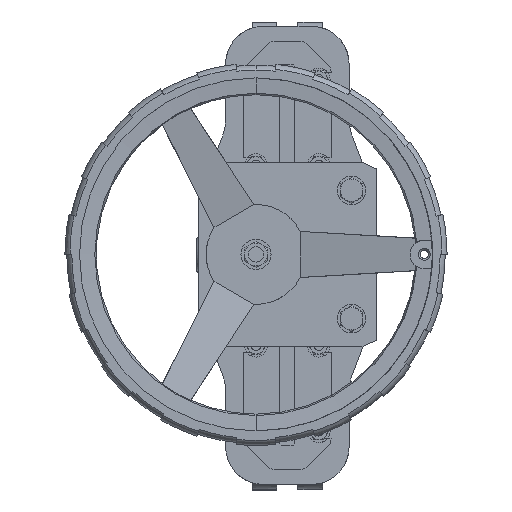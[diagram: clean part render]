
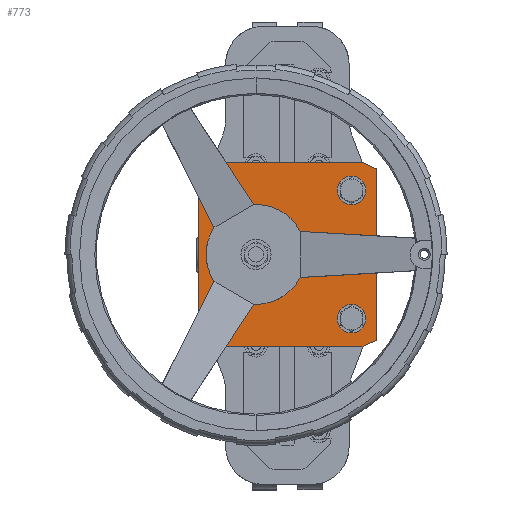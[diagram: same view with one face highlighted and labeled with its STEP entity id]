
A CAD part, top view. The second image highlights one B-rep face of the part: STEP entity #773.
In plain terms, the highlighted planar face has unit normal (0, 0, 1).
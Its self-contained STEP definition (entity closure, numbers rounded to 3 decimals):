
#773=ADVANCED_FACE('',(#2720,#2721,#2722,#2723,#2724,#2725),#2726,.F.);
#2720=FACE_BOUND('',#6056,.T.);
#2721=FACE_BOUND('',#6057,.T.);
#2722=FACE_OUTER_BOUND('',#6058,.T.);
#2723=FACE_BOUND('',#6059,.T.);
#2724=FACE_BOUND('',#6060,.T.);
#2725=FACE_BOUND('',#6061,.T.);
#2726=PLANE('',#6062);
#6056=EDGE_LOOP('',(#13411,#13412));
#6057=EDGE_LOOP('',(#13413,#13414));
#6058=EDGE_LOOP('',(#13415,#13416,#13417,#13418,#13419,#13420,#13421,#13422));
#6059=EDGE_LOOP('',(#13423,#13424));
#6060=EDGE_LOOP('',(#13425,#13426));
#6061=EDGE_LOOP('',(#13427,#13428));
#6062=AXIS2_PLACEMENT_3D('',#13429,#13430,#13431);
#13411=ORIENTED_EDGE('',*,*,#23729,.T.);
#13412=ORIENTED_EDGE('',*,*,#24422,.T.);
#13413=ORIENTED_EDGE('',*,*,#23227,.T.);
#13414=ORIENTED_EDGE('',*,*,#24423,.T.);
#13415=ORIENTED_EDGE('',*,*,#24283,.F.);
#13416=ORIENTED_EDGE('',*,*,#24379,.T.);
#13417=ORIENTED_EDGE('',*,*,#24424,.F.);
#13418=ORIENTED_EDGE('',*,*,#24425,.T.);
#13419=ORIENTED_EDGE('',*,*,#24226,.F.);
#13420=ORIENTED_EDGE('',*,*,#24230,.T.);
#13421=ORIENTED_EDGE('',*,*,#24426,.F.);
#13422=ORIENTED_EDGE('',*,*,#24427,.T.);
#13423=ORIENTED_EDGE('',*,*,#24017,.T.);
#13424=ORIENTED_EDGE('',*,*,#24428,.T.);
#13425=ORIENTED_EDGE('',*,*,#23212,.T.);
#13426=ORIENTED_EDGE('',*,*,#24429,.T.);
#13427=ORIENTED_EDGE('',*,*,#23396,.T.);
#13428=ORIENTED_EDGE('',*,*,#24430,.T.);
#13429=CARTESIAN_POINT('',(-93.5,-97.,891.1));
#13430=DIRECTION('',(0.,0.,-1.));
#13431=DIRECTION('',(0.,1.,0.));
#23212=EDGE_CURVE('',#28342,#28339,#28343,.T.);
#23227=EDGE_CURVE('',#28370,#28367,#28371,.T.);
#23396=EDGE_CURVE('',#28705,#28702,#28706,.T.);
#23729=EDGE_CURVE('',#29353,#29350,#29354,.T.);
#24017=EDGE_CURVE('',#29916,#29913,#29917,.T.);
#24226=EDGE_CURVE('',#30284,#30286,#30287,.T.);
#24230=EDGE_CURVE('',#30284,#30291,#30293,.T.);
#24283=EDGE_CURVE('',#30378,#30380,#30381,.T.);
#24379=EDGE_CURVE('',#30378,#30543,#30545,.T.);
#24422=EDGE_CURVE('',#29350,#29353,#30612,.T.);
#24423=EDGE_CURVE('',#28367,#28370,#30613,.T.);
#24424=EDGE_CURVE('',#30614,#30543,#30615,.T.);
#24425=EDGE_CURVE('',#30614,#30286,#30616,.T.);
#24426=EDGE_CURVE('',#30617,#30291,#30618,.T.);
#24427=EDGE_CURVE('',#30617,#30380,#30619,.T.);
#24428=EDGE_CURVE('',#29913,#29916,#30620,.T.);
#24429=EDGE_CURVE('',#28339,#28342,#30621,.T.);
#24430=EDGE_CURVE('',#28702,#28705,#30622,.T.);
#28339=VERTEX_POINT('',#35019);
#28342=VERTEX_POINT('',#35023);
#28343=CIRCLE('',#35024,15.);
#28367=VERTEX_POINT('',#35059);
#28370=VERTEX_POINT('',#35063);
#28371=CIRCLE('',#35064,15.);
#28702=VERTEX_POINT('',#35578);
#28705=VERTEX_POINT('',#35582);
#28706=CIRCLE('',#35583,15.);
#29350=VERTEX_POINT('',#36776);
#29353=VERTEX_POINT('',#36780);
#29354=CIRCLE('',#36781,15.);
#29913=VERTEX_POINT('',#37776);
#29916=VERTEX_POINT('',#37780);
#29917=CIRCLE('',#37781,27.5);
#30284=VERTEX_POINT('',#38529);
#30286=VERTEX_POINT('',#38532);
#30287=LINE('',#38533,#38534);
#30291=VERTEX_POINT('',#38540);
#30293=LINE('',#38543,#38544);
#30378=VERTEX_POINT('',#38721);
#30380=VERTEX_POINT('',#38724);
#30381=LINE('',#38725,#38726);
#30543=VERTEX_POINT('',#39016);
#30545=LINE('',#39019,#39020);
#30612=CIRCLE('',#39189,15.);
#30613=CIRCLE('',#39190,15.);
#30614=VERTEX_POINT('',#39191);
#30615=LINE('',#39192,#39193);
#30616=LINE('',#39194,#39195);
#30617=VERTEX_POINT('',#39196);
#30618=LINE('',#39197,#39198);
#30619=LINE('',#39199,#39200);
#30620=CIRCLE('',#39201,27.5);
#30621=CIRCLE('',#39202,15.);
#30622=CIRCLE('',#39203,15.);
#35019=CARTESIAN_POINT('',(67.5,82.5,891.1));
#35023=CARTESIAN_POINT('',(67.5,52.5,891.1));
#35024=AXIS2_PLACEMENT_3D('',#47868,#47869,#47870);
#35059=CARTESIAN_POINT('',(67.5,-52.5,891.1));
#35063=CARTESIAN_POINT('',(67.5,-82.5,891.1));
#35064=AXIS2_PLACEMENT_3D('',#47896,#47897,#47898);
#35578=CARTESIAN_POINT('',(-67.5,-52.5,891.1));
#35582=CARTESIAN_POINT('',(-67.5,-82.5,891.1));
#35583=AXIS2_PLACEMENT_3D('',#48202,#48203,#48204);
#36776=CARTESIAN_POINT('',(-67.5,82.5,891.1));
#36780=CARTESIAN_POINT('',(-67.5,52.5,891.1));
#36781=AXIS2_PLACEMENT_3D('',#48839,#48840,#48841);
#37776=CARTESIAN_POINT('',(-60.5,0.,891.1));
#37780=CARTESIAN_POINT('',(-5.5,0.,891.1));
#37781=AXIS2_PLACEMENT_3D('',#49333,#49334,#49335);
#38529=CARTESIAN_POINT('',(78.5,-97.,891.1));
#38532=CARTESIAN_POINT('',(-78.5,-97.,891.1));
#38533=CARTESIAN_POINT('',(93.5,-97.,891.1));
#38534=VECTOR('',#49661,1000.);
#38540=CARTESIAN_POINT('',(93.5,-90.005,891.1));
#38543=CARTESIAN_POINT('',(78.5,-97.,891.1));
#38544=VECTOR('',#49665,1000.);
#38721=CARTESIAN_POINT('',(-78.5,97.,891.1));
#38724=CARTESIAN_POINT('',(78.5,97.,891.1));
#38725=CARTESIAN_POINT('',(-93.5,97.,891.1));
#38726=VECTOR('',#49734,1000.);
#39016=CARTESIAN_POINT('',(-93.5,90.005,891.1));
#39019=CARTESIAN_POINT('',(-78.5,97.,891.1));
#39020=VECTOR('',#49901,1000.);
#39189=AXIS2_PLACEMENT_3D('',#49956,#49957,#49958);
#39190=AXIS2_PLACEMENT_3D('',#49959,#49960,#49961);
#39191=CARTESIAN_POINT('',(-93.5,-90.005,891.1));
#39192=CARTESIAN_POINT('',(-93.5,-97.,891.1));
#39193=VECTOR('',#49962,1000.);
#39194=CARTESIAN_POINT('',(-93.5,-90.005,891.1));
#39195=VECTOR('',#49963,1000.);
#39196=CARTESIAN_POINT('',(93.5,90.005,891.1));
#39197=CARTESIAN_POINT('',(93.5,97.,891.1));
#39198=VECTOR('',#49964,1000.);
#39199=CARTESIAN_POINT('',(93.5,90.005,891.1));
#39200=VECTOR('',#49965,1000.);
#39201=AXIS2_PLACEMENT_3D('',#49966,#49967,#49968);
#39202=AXIS2_PLACEMENT_3D('',#49969,#49970,#49971);
#39203=AXIS2_PLACEMENT_3D('',#49972,#49973,#49974);
#47868=CARTESIAN_POINT('',(67.5,67.5,891.1));
#47869=DIRECTION('',(0.,0.,-1.));
#47870=DIRECTION('',(0.,-1.,0.));
#47896=CARTESIAN_POINT('',(67.5,-67.5,891.1));
#47897=DIRECTION('',(0.,0.,-1.));
#47898=DIRECTION('',(0.,-1.,0.));
#48202=CARTESIAN_POINT('',(-67.5,-67.5,891.1));
#48203=DIRECTION('',(0.,0.,-1.));
#48204=DIRECTION('',(0.,-1.,0.));
#48839=CARTESIAN_POINT('',(-67.5,67.5,891.1));
#48840=DIRECTION('',(0.,0.,-1.));
#48841=DIRECTION('',(0.,-1.,0.));
#49333=CARTESIAN_POINT('',(-33.,0.,891.1));
#49334=DIRECTION('',(0.,0.,-1.));
#49335=DIRECTION('',(1.,0.,0.));
#49661=DIRECTION('',(-1.,0.,0.));
#49665=DIRECTION('',(0.906,0.423,0.));
#49734=DIRECTION('',(1.,0.,0.));
#49901=DIRECTION('',(-0.906,-0.423,0.));
#49956=CARTESIAN_POINT('',(-67.5,67.5,891.1));
#49957=DIRECTION('',(0.,0.,-1.));
#49958=DIRECTION('',(0.,-1.,0.));
#49959=CARTESIAN_POINT('',(67.5,-67.5,891.1));
#49960=DIRECTION('',(0.,0.,-1.));
#49961=DIRECTION('',(0.,-1.,0.));
#49962=DIRECTION('',(0.,1.,0.));
#49963=DIRECTION('',(0.906,-0.423,0.));
#49964=DIRECTION('',(0.,-1.,0.));
#49965=DIRECTION('',(-0.906,0.423,0.));
#49966=CARTESIAN_POINT('',(-33.,0.,891.1));
#49967=DIRECTION('',(0.,0.,-1.));
#49968=DIRECTION('',(1.,0.,0.));
#49969=CARTESIAN_POINT('',(67.5,67.5,891.1));
#49970=DIRECTION('',(0.,0.,-1.));
#49971=DIRECTION('',(0.,-1.,0.));
#49972=CARTESIAN_POINT('',(-67.5,-67.5,891.1));
#49973=DIRECTION('',(0.,0.,-1.));
#49974=DIRECTION('',(0.,-1.,0.));
